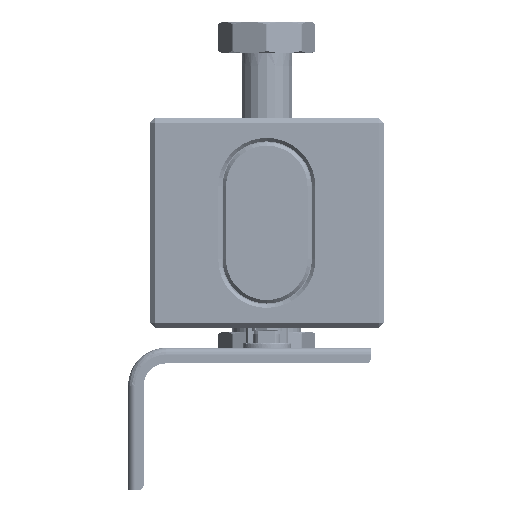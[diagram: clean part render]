
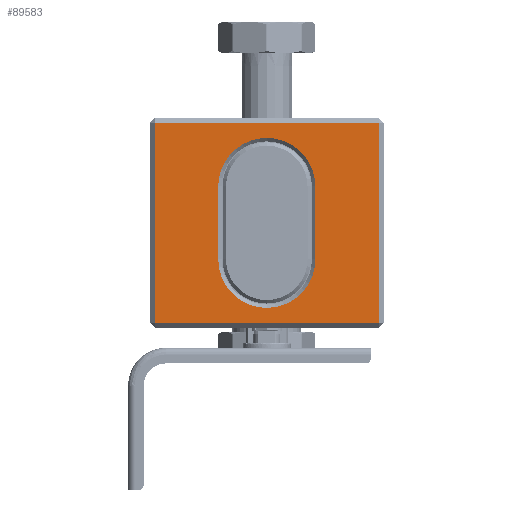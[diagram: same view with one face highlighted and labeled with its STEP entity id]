
A CAD part, left-side view. The second image highlights one B-rep face of the part: STEP entity #89583.
In plain terms, the highlighted planar face has unit normal (-1, 0, 0) as drawn and (0, -1, 0) by its records, which use the part's own axes.
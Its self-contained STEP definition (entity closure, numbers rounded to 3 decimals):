
#1472 = ORIENTED_EDGE ( 'NONE', *, *, #24448, .T. ) ;
#1859 = ORIENTED_EDGE ( 'NONE', *, *, #24022, .T. ) ;
#2471 = CARTESIAN_POINT ( 'NONE',  ( -17.5, -7.003, 57.5 ) ) ;
#4970 = CARTESIAN_POINT ( 'NONE',  ( 22., -7.003, 0. ) ) ;
#6147 = EDGE_CURVE ( 'NONE', #86659, #93727, #95571, .T. ) ;
#6919 = AXIS2_PLACEMENT_3D ( 'NONE', #27603, #93429, #49561 ) ;
#8946 = CARTESIAN_POINT ( 'NONE',  ( 50., -7.003, 21. ) ) ;
#17391 = CIRCLE ( 'NONE', #59446, 28. ) ;
#19044 = CARTESIAN_POINT ( 'NONE',  ( 114.5, -7.003, -57.5 ) ) ;
#20805 = VECTOR ( 'NONE', #51616, 1000. ) ;
#24022 = EDGE_CURVE ( 'NONE', #92961, #31369, #142349, .T. ) ;
#24158 = AXIS2_PLACEMENT_3D ( 'NONE', #82055, #128750, #38191 ) ;
#24305 = ORIENTED_EDGE ( 'NONE', *, *, #114826, .T. ) ;
#24448 = EDGE_CURVE ( 'NONE', #122502, #92961, #39194, .T. ) ;
#27542 = CARTESIAN_POINT ( 'NONE',  ( 22., -7.003, 21. ) ) ;
#27603 = CARTESIAN_POINT ( 'NONE',  ( 50., -7.003, -21. ) ) ;
#28632 = ORIENTED_EDGE ( 'NONE', *, *, #6147, .T. ) ;
#31369 = VERTEX_POINT ( 'NONE', #143167 ) ;
#33433 = CARTESIAN_POINT ( 'NONE',  ( -14.5, -7.003, 0. ) ) ;
#34127 = EDGE_CURVE ( 'NONE', #68145, #122502, #133543, .T. ) ;
#34765 = VECTOR ( 'NONE', #42988, 1000. ) ;
#38191 = DIRECTION ( 'NONE',  ( 0., 0., -1. ) ) ;
#39194 = LINE ( 'NONE', #96190, #20805 ) ;
#39748 = CARTESIAN_POINT ( 'NONE',  ( 78., -7.003, 0. ) ) ;
#42988 = DIRECTION ( 'NONE',  ( 0., 0., 1. ) ) ;
#43647 = CARTESIAN_POINT ( 'NONE',  ( 50., -7.003, -21. ) ) ;
#44373 = DIRECTION ( 'NONE',  ( 0., 1., 0. ) ) ;
#44478 = CARTESIAN_POINT ( 'NONE',  ( 50., -7.003, -49. ) ) ;
#49561 = DIRECTION ( 'NONE',  ( 0., 0., -1. ) ) ;
#51030 = VECTOR ( 'NONE', #61657, 1000. ) ;
#51280 = CIRCLE ( 'NONE', #6919, 28. ) ;
#51387 = VECTOR ( 'NONE', #91669, 1000. ) ;
#51466 = ORIENTED_EDGE ( 'NONE', *, *, #74142, .T. ) ;
#51616 = DIRECTION ( 'NONE',  ( 1., 0., 0. ) ) ;
#57535 = ORIENTED_EDGE ( 'NONE', *, *, #105059, .T. ) ;
#59446 = AXIS2_PLACEMENT_3D ( 'NONE', #43647, #44373, #132058 ) ;
#60834 = PLANE ( 'NONE',  #24158 ) ;
#61657 = DIRECTION ( 'NONE',  ( 0., 0., -1. ) ) ;
#67460 = VECTOR ( 'NONE', #118198, 1000. ) ;
#68145 = VERTEX_POINT ( 'NONE', #116549 ) ;
#69833 = ORIENTED_EDGE ( 'NONE', *, *, #34127, .T. ) ;
#74142 = EDGE_CURVE ( 'NONE', #108894, #86659, #17391, .T. ) ;
#77737 = VERTEX_POINT ( 'NONE', #142944 ) ;
#77821 = EDGE_CURVE ( 'NONE', #93727, #77737, #96990, .T. ) ;
#82055 = CARTESIAN_POINT ( 'NONE',  ( -17.5, -7.003, 0. ) ) ;
#82765 = FACE_BOUND ( 'NONE', #99756, .T. ) ;
#84117 = CARTESIAN_POINT ( 'NONE',  ( 22., -7.003, -21. ) ) ;
#85706 = DIRECTION ( 'NONE',  ( 0., 1., 0. ) ) ;
#86659 = VERTEX_POINT ( 'NONE', #84117 ) ;
#89583 = ADVANCED_FACE ( 'NONE', ( #82765, #103930 ), #60834, .T. ) ;
#89847 = VERTEX_POINT ( 'NONE', #135207 ) ;
#91669 = DIRECTION ( 'NONE',  ( -1., 0., 0. ) ) ;
#92961 = VERTEX_POINT ( 'NONE', #19044 ) ;
#93429 = DIRECTION ( 'NONE',  ( 0., 1., 0. ) ) ;
#93727 = VERTEX_POINT ( 'NONE', #27542 ) ;
#95368 = EDGE_LOOP ( 'NONE', ( #57535, #69833, #1472, #1859 ) ) ;
#95571 = LINE ( 'NONE', #4970, #67460 ) ;
#96190 = CARTESIAN_POINT ( 'NONE',  ( -17.5, -7.003, -57.5 ) ) ;
#96990 = CIRCLE ( 'NONE', #136709, 28. ) ;
#99756 = EDGE_LOOP ( 'NONE', ( #117595, #24305, #144097, #51466, #28632 ) ) ;
#102218 = EDGE_CURVE ( 'NONE', #89847, #108894, #51280, .T. ) ;
#103930 = FACE_OUTER_BOUND ( 'NONE', #95368, .T. ) ;
#105059 = EDGE_CURVE ( 'NONE', #31369, #68145, #128108, .T. ) ;
#108339 = DIRECTION ( 'NONE',  ( 1., 0., 0. ) ) ;
#108894 = VERTEX_POINT ( 'NONE', #44478 ) ;
#109549 = VECTOR ( 'NONE', #134232, 1000. ) ;
#114826 = EDGE_CURVE ( 'NONE', #77737, #89847, #139815, .T. ) ;
#116549 = CARTESIAN_POINT ( 'NONE',  ( -14.5, -7.003, 57.5 ) ) ;
#117595 = ORIENTED_EDGE ( 'NONE', *, *, #77821, .T. ) ;
#118198 = DIRECTION ( 'NONE',  ( 0., 0., 1. ) ) ;
#122502 = VERTEX_POINT ( 'NONE', #140937 ) ;
#122578 = CARTESIAN_POINT ( 'NONE',  ( 114.5, -7.003, 0. ) ) ;
#128108 = LINE ( 'NONE', #2471, #51387 ) ;
#128750 = DIRECTION ( 'NONE',  ( 0., -1., 0. ) ) ;
#132058 = DIRECTION ( 'NONE',  ( 0., 0., -1. ) ) ;
#133543 = LINE ( 'NONE', #33433, #109549 ) ;
#134232 = DIRECTION ( 'NONE',  ( 0., 0., -1. ) ) ;
#135207 = CARTESIAN_POINT ( 'NONE',  ( 78., -7.003, -21. ) ) ;
#136709 = AXIS2_PLACEMENT_3D ( 'NONE', #8946, #85706, #108339 ) ;
#139815 = LINE ( 'NONE', #39748, #51030 ) ;
#140937 = CARTESIAN_POINT ( 'NONE',  ( -14.5, -7.003, -57.5 ) ) ;
#142349 = LINE ( 'NONE', #122578, #34765 ) ;
#142944 = CARTESIAN_POINT ( 'NONE',  ( 78., -7.003, 21. ) ) ;
#143167 = CARTESIAN_POINT ( 'NONE',  ( 114.5, -7.003, 57.5 ) ) ;
#144097 = ORIENTED_EDGE ( 'NONE', *, *, #102218, .T. ) ;
